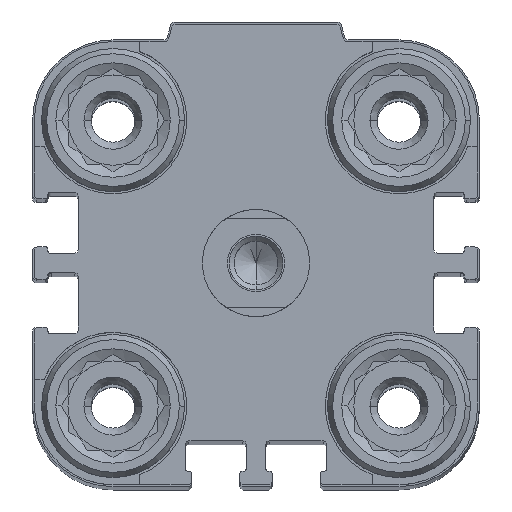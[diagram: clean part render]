
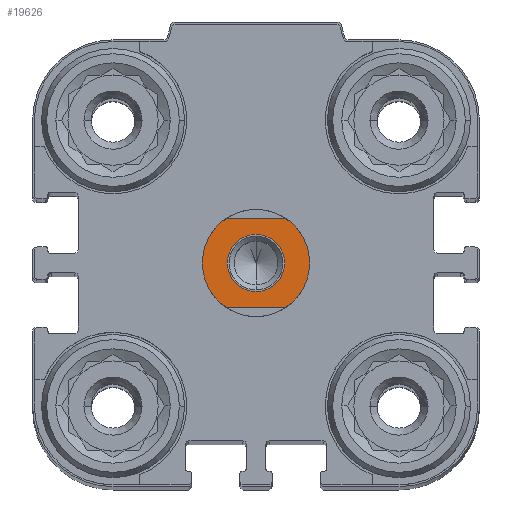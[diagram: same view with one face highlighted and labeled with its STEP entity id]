
A CAD part, top view. The second image highlights one B-rep face of the part: STEP entity #19626.
In plain terms, the highlighted planar face has unit normal (0, 0, 1).
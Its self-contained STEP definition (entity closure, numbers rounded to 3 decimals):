
#100 = AXIS2_PLACEMENT_3D ( 'NONE', #21738, #21506, #16147 ) ;
#105 = AXIS2_PLACEMENT_3D ( 'NONE', #4594, #3199, #18424 ) ;
#282 = VERTEX_POINT ( 'NONE', #6479 ) ;
#797 = CARTESIAN_POINT ( 'NONE',  ( 0., -3.2, 6. ) ) ;
#1286 = CIRCLE ( 'NONE', #18110, 6. ) ;
#1371 = CARTESIAN_POINT ( 'NONE',  ( 10., -5., 6. ) ) ;
#1560 = CARTESIAN_POINT ( 'NONE',  ( -3.317, -5., 6. ) ) ;
#2265 = DIRECTION ( 'NONE',  ( -1., 0., 0. ) ) ;
#2326 = VECTOR ( 'NONE', #18857, 1000. ) ;
#2845 = ORIENTED_EDGE ( 'NONE', *, *, #3290, .F. ) ;
#3056 = DIRECTION ( 'NONE',  ( 0., 1., 0. ) ) ;
#3199 = DIRECTION ( 'NONE',  ( 0., 0., -1. ) ) ;
#3290 = EDGE_CURVE ( 'NONE', #13790, #20623, #11672, .T. ) ;
#3754 = CARTESIAN_POINT ( 'NONE',  ( -6., 0., 6. ) ) ;
#3847 = EDGE_CURVE ( 'NONE', #19630, #16057, #1286, .T. ) ;
#3875 = EDGE_CURVE ( 'NONE', #20696, #282, #9321, .T. ) ;
#4179 = AXIS2_PLACEMENT_3D ( 'NONE', #21787, #14711, #13118 ) ;
#4594 = CARTESIAN_POINT ( 'NONE',  ( 0., 0., 6. ) ) ;
#6093 = EDGE_CURVE ( 'NONE', #13729, #10377, #9983, .T. ) ;
#6461 = CIRCLE ( 'NONE', #15569, 6. ) ;
#6479 = CARTESIAN_POINT ( 'NONE',  ( 0., 3.2, 6. ) ) ;
#6732 = DIRECTION ( 'NONE',  ( 0., 0., -1. ) ) ;
#6850 = FACE_OUTER_BOUND ( 'NONE', #15924, .T. ) ;
#6853 = DIRECTION ( 'NONE',  ( 0., 0., -1. ) ) ;
#6933 = ORIENTED_EDGE ( 'NONE', *, *, #11117, .T. ) ;
#7861 = CIRCLE ( 'NONE', #4179, 6. ) ;
#9103 = DIRECTION ( 'NONE',  ( 1., 0., 0. ) ) ;
#9321 = CIRCLE ( 'NONE', #18054, 3.2 ) ;
#9393 = CARTESIAN_POINT ( 'NONE',  ( 0., 0., 6. ) ) ;
#9780 = ORIENTED_EDGE ( 'NONE', *, *, #11104, .F. ) ;
#9983 = CIRCLE ( 'NONE', #100, 6. ) ;
#10231 = ORIENTED_EDGE ( 'NONE', *, *, #6093, .F. ) ;
#10377 = VERTEX_POINT ( 'NONE', #17528 ) ;
#11104 = EDGE_CURVE ( 'NONE', #10377, #19630, #13484, .T. ) ;
#11117 = EDGE_CURVE ( 'NONE', #282, #20696, #19455, .T. ) ;
#11672 = LINE ( 'NONE', #21293, #12631 ) ;
#11872 = DIRECTION ( 'NONE',  ( 0., 0., -1. ) ) ;
#11875 = CARTESIAN_POINT ( 'NONE',  ( 0., 0., 6. ) ) ;
#12631 = VECTOR ( 'NONE', #9103, 1000. ) ;
#12813 = CARTESIAN_POINT ( 'NONE',  ( 6., 0., 6. ) ) ;
#12904 = DIRECTION ( 'NONE',  ( 0., 0., -1. ) ) ;
#13118 = DIRECTION ( 'NONE',  ( -1., 0., 0. ) ) ;
#13368 = CARTESIAN_POINT ( 'NONE',  ( 3.317, 5., 6. ) ) ;
#13484 = LINE ( 'NONE', #1371, #2326 ) ;
#13496 = ORIENTED_EDGE ( 'NONE', *, *, #21045, .F. ) ;
#13564 = FACE_BOUND ( 'NONE', #18944, .T. ) ;
#13692 = PLANE ( 'NONE',  #16932 ) ;
#13729 = VERTEX_POINT ( 'NONE', #12813 ) ;
#13790 = VERTEX_POINT ( 'NONE', #17680 ) ;
#13802 = CARTESIAN_POINT ( 'NONE',  ( 0., 0., 6. ) ) ;
#14711 = DIRECTION ( 'NONE',  ( 0., 0., -1. ) ) ;
#15569 = AXIS2_PLACEMENT_3D ( 'NONE', #9393, #12904, #2265 ) ;
#15924 = EDGE_LOOP ( 'NONE', ( #2845, #13496, #19583, #9780, #10231, #20039 ) ) ;
#16057 = VERTEX_POINT ( 'NONE', #3754 ) ;
#16147 = DIRECTION ( 'NONE',  ( -1., 0., 0. ) ) ;
#16156 = EDGE_CURVE ( 'NONE', #20623, #13729, #6461, .T. ) ;
#16932 = AXIS2_PLACEMENT_3D ( 'NONE', #13802, #11872, #3056 ) ;
#17528 = CARTESIAN_POINT ( 'NONE',  ( 3.317, -5., 6. ) ) ;
#17680 = CARTESIAN_POINT ( 'NONE',  ( -3.317, 5., 6. ) ) ;
#18054 = AXIS2_PLACEMENT_3D ( 'NONE', #22358, #6732, #20660 ) ;
#18110 = AXIS2_PLACEMENT_3D ( 'NONE', #11875, #6853, #20322 ) ;
#18374 = ORIENTED_EDGE ( 'NONE', *, *, #3875, .T. ) ;
#18424 = DIRECTION ( 'NONE',  ( 0., 1., 0. ) ) ;
#18857 = DIRECTION ( 'NONE',  ( -1., 0., 0. ) ) ;
#18944 = EDGE_LOOP ( 'NONE', ( #6933, #18374 ) ) ;
#19455 = CIRCLE ( 'NONE', #105, 3.2 ) ;
#19583 = ORIENTED_EDGE ( 'NONE', *, *, #3847, .F. ) ;
#19626 = ADVANCED_FACE ( 'NONE', ( #6850, #13564 ), #13692, .F. ) ;
#19630 = VERTEX_POINT ( 'NONE', #1560 ) ;
#20039 = ORIENTED_EDGE ( 'NONE', *, *, #16156, .F. ) ;
#20322 = DIRECTION ( 'NONE',  ( -1., 0., 0. ) ) ;
#20623 = VERTEX_POINT ( 'NONE', #13368 ) ;
#20660 = DIRECTION ( 'NONE',  ( 0., 1., 0. ) ) ;
#20696 = VERTEX_POINT ( 'NONE', #797 ) ;
#21045 = EDGE_CURVE ( 'NONE', #16057, #13790, #7861, .T. ) ;
#21293 = CARTESIAN_POINT ( 'NONE',  ( -10., 5., 6. ) ) ;
#21506 = DIRECTION ( 'NONE',  ( 0., 0., -1. ) ) ;
#21738 = CARTESIAN_POINT ( 'NONE',  ( 0., 0., 6. ) ) ;
#21787 = CARTESIAN_POINT ( 'NONE',  ( 0., 0., 6. ) ) ;
#22358 = CARTESIAN_POINT ( 'NONE',  ( 0., 0., 6. ) ) ;
